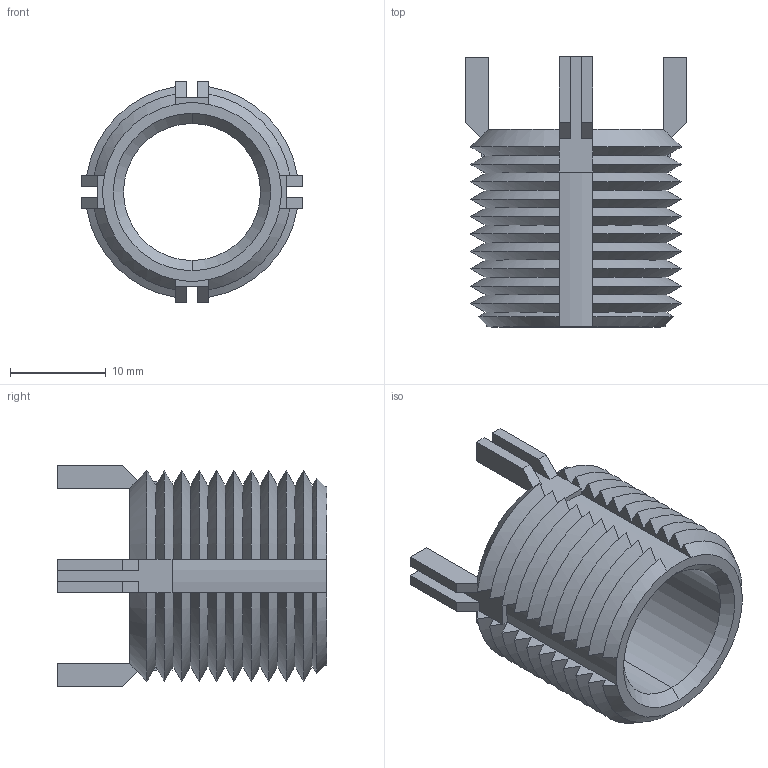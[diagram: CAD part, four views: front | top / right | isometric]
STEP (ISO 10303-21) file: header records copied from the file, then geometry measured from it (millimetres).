
FILE_DESCRIPTION (( 'STEP AP203' ), '1' );
FILE_NAME ('22024.W5390.step', '2020-01-04T21:58:14', ( '' ), ( '' ), 'SwSTEP 2.0', 'SolidWorks 2017', '' );
FILE_SCHEMA (( 'CONFIG_CONTROL_DESIGN' ));
Length unit declared in the file: millimetre
Products named in the file (1): 22024.W5390
Bounding box: 23.06 x 28.13 x 23.06 mm (x, y, z)
Volume: 3441.3 mm3; surface area: 4025.5 mm2
Topology: 1 solids, 1 shells, 188 faces, 498 edges, 312 vertices
Faces by surface type: cone 92, plane 90, cylinder 6
Entity records: 6063 total; most frequent: CARTESIAN_POINT 1683, ORIENTED_EDGE 996, DIRECTION 768, EDGE_CURVE 498, VERTEX_POINT 312, AXIS2_PLACEMENT_3D 297, B_SPLINE_CURVE_WITH_KNOTS 216, EDGE_LOOP 190
